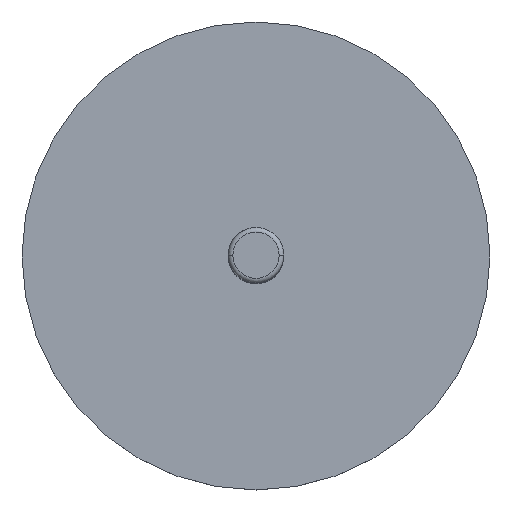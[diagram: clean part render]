
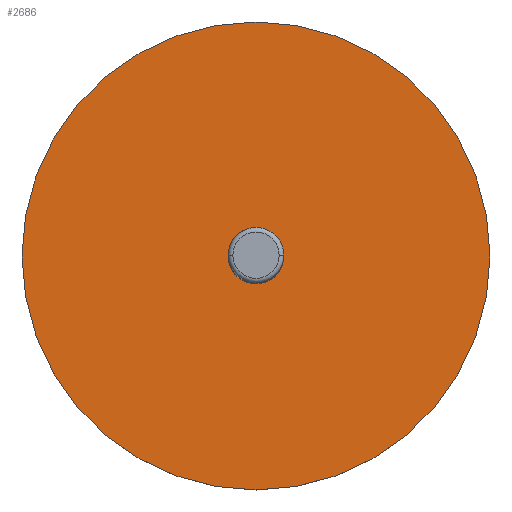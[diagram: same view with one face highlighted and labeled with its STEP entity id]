
A CAD part, top view. The second image highlights one B-rep face of the part: STEP entity #2686.
In plain terms, the highlighted planar face has unit normal (0, 0, 1) as drawn and (0, -1, 0) by its records, which use the part's own axes.
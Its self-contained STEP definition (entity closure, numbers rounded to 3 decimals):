
#90 = CARTESIAN_POINT ( 'NONE',  ( 0., 0., 0. ) ) ;
#102 = DIRECTION ( 'NONE',  ( 0., 1., 0. ) ) ;
#140 = EDGE_LOOP ( 'NONE', ( #1148, #4272 ) ) ;
#209 = CARTESIAN_POINT ( 'NONE',  ( 0., 0., 0. ) ) ;
#282 = CARTESIAN_POINT ( 'NONE',  ( 0., 0., 0. ) ) ;
#283 = VERTEX_POINT ( 'NONE', #1011 ) ;
#368 = AXIS2_PLACEMENT_3D ( 'NONE', #3062, #102, #1600 ) ;
#569 = CARTESIAN_POINT ( 'NONE',  ( 0., 0., 0. ) ) ;
#747 = EDGE_LOOP ( 'NONE', ( #2519, #751 ) ) ;
#751 = ORIENTED_EDGE ( 'NONE', *, *, #3076, .T. ) ;
#830 = AXIS2_PLACEMENT_3D ( 'NONE', #90, #4153, #3074 ) ;
#999 = VERTEX_POINT ( 'NONE', #4328 ) ;
#1011 = CARTESIAN_POINT ( 'NONE',  ( 0., 0., 25.25 ) ) ;
#1014 = CARTESIAN_POINT ( 'NONE',  ( 0., 0., 3. ) ) ;
#1134 = EDGE_CURVE ( 'NONE', #1891, #999, #2521, .T. ) ;
#1148 = ORIENTED_EDGE ( 'NONE', *, *, #3424, .F. ) ;
#1399 = CARTESIAN_POINT ( 'NONE',  ( 0., 0., -25.25 ) ) ;
#1407 = DIRECTION ( 'NONE',  ( 0., 0., 1. ) ) ;
#1600 = DIRECTION ( 'NONE',  ( 0., 0., 1. ) ) ;
#1633 = CIRCLE ( 'NONE', #368, 25.25 ) ;
#1867 = VERTEX_POINT ( 'NONE', #1399 ) ;
#1891 = VERTEX_POINT ( 'NONE', #1014 ) ;
#2057 = DIRECTION ( 'NONE',  ( 1., 0., 0. ) ) ;
#2218 = AXIS2_PLACEMENT_3D ( 'NONE', #209, #3586, #1407 ) ;
#2501 = AXIS2_PLACEMENT_3D ( 'NONE', #282, #3343, #4387 ) ;
#2519 = ORIENTED_EDGE ( 'NONE', *, *, #1134, .T. ) ;
#2521 = CIRCLE ( 'NONE', #830, 3. ) ;
#2686 = ADVANCED_FACE ( 'NONE', ( #3510, #3468 ), #3110, .F. ) ;
#2692 = EDGE_CURVE ( 'NONE', #283, #1867, #1633, .T. ) ;
#3062 = CARTESIAN_POINT ( 'NONE',  ( 0., 0., 0. ) ) ;
#3074 = DIRECTION ( 'NONE',  ( 0., 0., 1. ) ) ;
#3076 = EDGE_CURVE ( 'NONE', #999, #1891, #4693, .T. ) ;
#3110 = PLANE ( 'NONE',  #4589 ) ;
#3159 = DIRECTION ( 'NONE',  ( 0., 1., 0. ) ) ;
#3343 = DIRECTION ( 'NONE',  ( 0., 1., 0. ) ) ;
#3424 = EDGE_CURVE ( 'NONE', #1867, #283, #4784, .T. ) ;
#3468 = FACE_OUTER_BOUND ( 'NONE', #140, .T. ) ;
#3510 = FACE_BOUND ( 'NONE', #747, .T. ) ;
#3586 = DIRECTION ( 'NONE',  ( 0., 1., 0. ) ) ;
#4153 = DIRECTION ( 'NONE',  ( 0., 1., 0. ) ) ;
#4272 = ORIENTED_EDGE ( 'NONE', *, *, #2692, .F. ) ;
#4328 = CARTESIAN_POINT ( 'NONE',  ( 0., 0., -3. ) ) ;
#4387 = DIRECTION ( 'NONE',  ( 0., 0., 1. ) ) ;
#4589 = AXIS2_PLACEMENT_3D ( 'NONE', #569, #3159, #2057 ) ;
#4693 = CIRCLE ( 'NONE', #2501, 3. ) ;
#4784 = CIRCLE ( 'NONE', #2218, 25.25 ) ;
